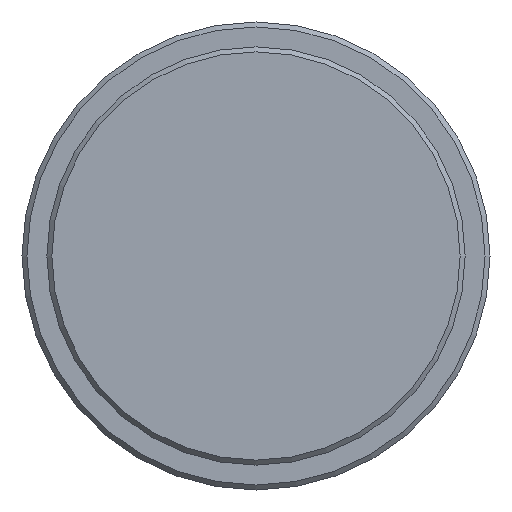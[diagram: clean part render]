
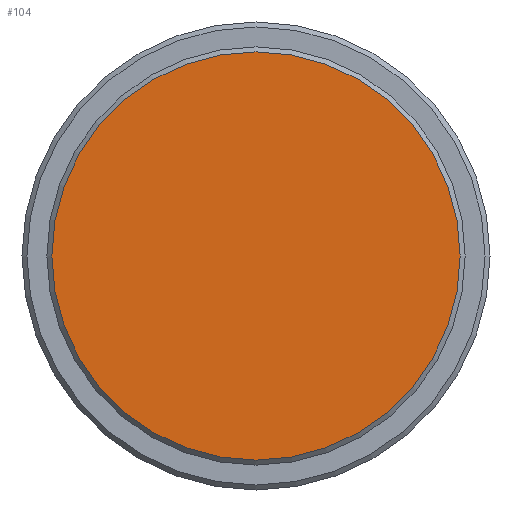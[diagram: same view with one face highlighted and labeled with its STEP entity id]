
A CAD part, front view. The second image highlights one B-rep face of the part: STEP entity #104.
In plain terms, the highlighted planar face has unit normal (0, -1, 0).
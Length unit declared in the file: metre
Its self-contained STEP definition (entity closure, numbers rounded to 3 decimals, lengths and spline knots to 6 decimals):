
#104 = ADVANCED_FACE( '', ( #187 ), #188, .T. );
#187 = FACE_OUTER_BOUND( '', #269, .T. );
#188 = PLANE( '', #270 );
#269 = EDGE_LOOP( '', ( #405 ) );
#270 = AXIS2_PLACEMENT_3D( '', #406, #407, #408 );
#405 = ORIENTED_EDGE( '', *, *, #435, .T. );
#406 = CARTESIAN_POINT( '', ( 0., -0.009, 0. ) );
#407 = DIRECTION( '', ( 0., -1., 0. ) );
#408 = DIRECTION( '', ( 0., 0., -1. ) );
#435 = EDGE_CURVE( '', #488, #488, #489, .T. );
#488 = VERTEX_POINT( '', #542 );
#489 = CIRCLE( '', #543, 0.0205 );
#542 = CARTESIAN_POINT( '', ( 0., -0.009, -0.0205 ) );
#543 = AXIS2_PLACEMENT_3D( '', #622, #623, #624 );
#622 = CARTESIAN_POINT( '', ( 0., -0.009, 0. ) );
#623 = DIRECTION( '', ( 0., -1., 0. ) );
#624 = DIRECTION( '', ( 0., 0., -1. ) );
